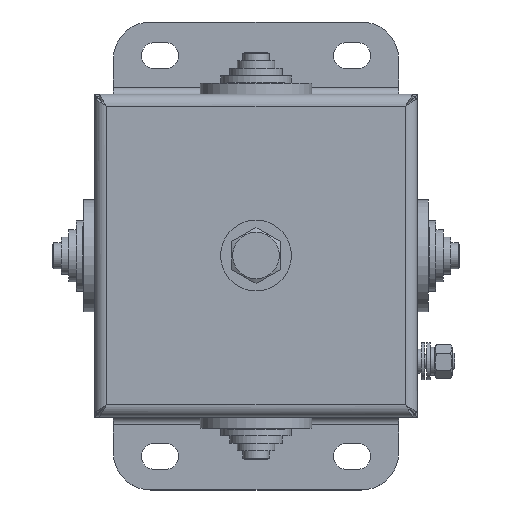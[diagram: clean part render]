
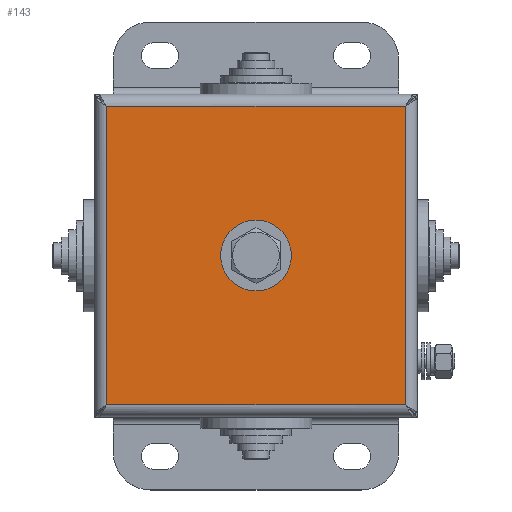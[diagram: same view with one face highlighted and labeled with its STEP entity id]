
A CAD part, top view. The second image highlights one B-rep face of the part: STEP entity #143.
In plain terms, the highlighted planar face has unit normal (0, 0, 1).
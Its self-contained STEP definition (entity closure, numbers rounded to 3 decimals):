
#143=ADVANCED_FACE('',(#8170,#8172),#8174,.T.);
#8170=FACE_BOUND('',#8171,.T.);
#8171=EDGE_LOOP('',(#15020,#15021,#15022,#15023));
#8172=FACE_BOUND('',#8173,.T.);
#8173=EDGE_LOOP('',(#15024));
#8174=PLANE('',#8175);
#8175=AXIS2_PLACEMENT_3D('',#8176,#8177,#8178);
#8176=CARTESIAN_POINT('',(0.,0.,61.7));
#8177=DIRECTION('',(0.,-0.,1.));
#8178=DIRECTION('',(0.,1.,0.));
#15020=ORIENTED_EDGE('',*,*,#20293,.T.);
#15021=ORIENTED_EDGE('',*,*,#20294,.T.);
#15022=ORIENTED_EDGE('',*,*,#20295,.T.);
#15023=ORIENTED_EDGE('',*,*,#20296,.T.);
#15024=ORIENTED_EDGE('',*,*,#20244,.T.);
#20244=EDGE_CURVE('',#22488,#22488,#22489,.F.);
#20293=EDGE_CURVE('',#22582,#22583,#22584,.T.);
#20294=EDGE_CURVE('',#22583,#22585,#22586,.T.);
#20295=EDGE_CURVE('',#22585,#22587,#22588,.T.);
#20296=EDGE_CURVE('',#22587,#22582,#22589,.T.);
#22488=VERTEX_POINT('',#26229);
#22489=CIRCLE('',#26230,8.5);
#22582=VERTEX_POINT('',#26441);
#22583=VERTEX_POINT('',#26442);
#22584=LINE('',#26443,#26444);
#22585=VERTEX_POINT('',#26446);
#22586=LINE('',#26447,#26448);
#22587=VERTEX_POINT('',#26450);
#22588=LINE('',#26451,#26452);
#22589=LINE('',#26454,#26455);
#26229=CARTESIAN_POINT('',(-8.5,0.,61.7));
#26230=AXIS2_PLACEMENT_3D('',#26231,#26232,#26233);
#26231=CARTESIAN_POINT('',(0.,0.,61.7));
#26232=DIRECTION('',(0.,-0.,1.));
#26233=DIRECTION('',(-1.,0.,0.));
#26441=CARTESIAN_POINT('',(40.05,40.05,61.7));
#26442=CARTESIAN_POINT('',(-40.05,40.05,61.7));
#26443=CARTESIAN_POINT('',(40.05,40.05,61.7));
#26444=VECTOR('',#26445,1.);
#26445=DIRECTION('',(-1.,0.,0.));
#26446=CARTESIAN_POINT('',(-40.05,-40.05,61.7));
#26447=CARTESIAN_POINT('',(-40.05,40.05,61.7));
#26448=VECTOR('',#26449,1.);
#26449=DIRECTION('',(0.,-1.,0.));
#26450=CARTESIAN_POINT('',(40.05,-40.05,61.7));
#26451=CARTESIAN_POINT('',(-40.05,-40.05,61.7));
#26452=VECTOR('',#26453,1.);
#26453=DIRECTION('',(1.,0.,0.));
#26454=CARTESIAN_POINT('',(40.05,-40.05,61.7));
#26455=VECTOR('',#26456,1.);
#26456=DIRECTION('',(0.,1.,0.));
